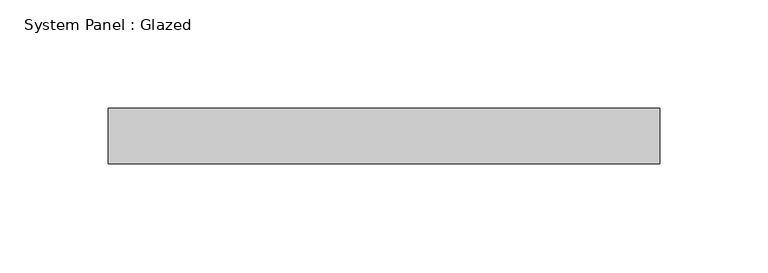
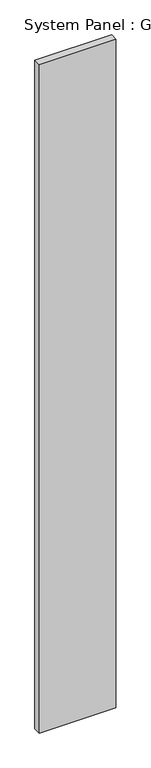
"""IFC4 building model written with IfcOpenShell, lengths in millimetres: plate geometry, System Panel : Glazed."""

from ifc_helpers import new_model, si_unit, origin, origin_with_axes, place, context, project, spatial, polyline, outline, extrude, source, transform, mapped, element, save


def system_panel_glazed_58ed4438(model_context):
    return source(origin(), model_context, "Body", "SweptSolid", [
        extrude(outline(polyline([(127.0, -44.45), (-127.0, -44.45), (-127.0, -19.05), (127.0, -19.05), (127.0, -44.45)])), origin_with_axes(), (0.0, 0.0, 1.0), 2343.15),
    ])


if __name__ == "__main__":
    model = new_model("IFC4")
    model_context = context("Model", 3, world=origin())
    ifc_project = project(units=[si_unit("LENGTHUNIT", "METRE", prefix="MILLI")], contexts=[model_context])
    site = spatial("IfcSite", under=ifc_project)
    building = spatial("IfcBuilding", under=site)
    placement = place(None, origin())
    system_panel_glazed_shape = system_panel_glazed_58ed4438(model_context)
    element("IfcPlate", 1, ObjectType="System Panel : Glazed", at=placement, inside=building, context=model_context, shape_type="MappedRepresentation", body=[
        mapped(system_panel_glazed_shape, transform((0.0, 0.0, 0.0), x_axis=(1.0, 0.0, 0.0), y_axis=(0.0, 1.0, 0.0), z_axis=(0.0, 0.0, 1.0))),
    ])
    save(model, "model.ifc")
